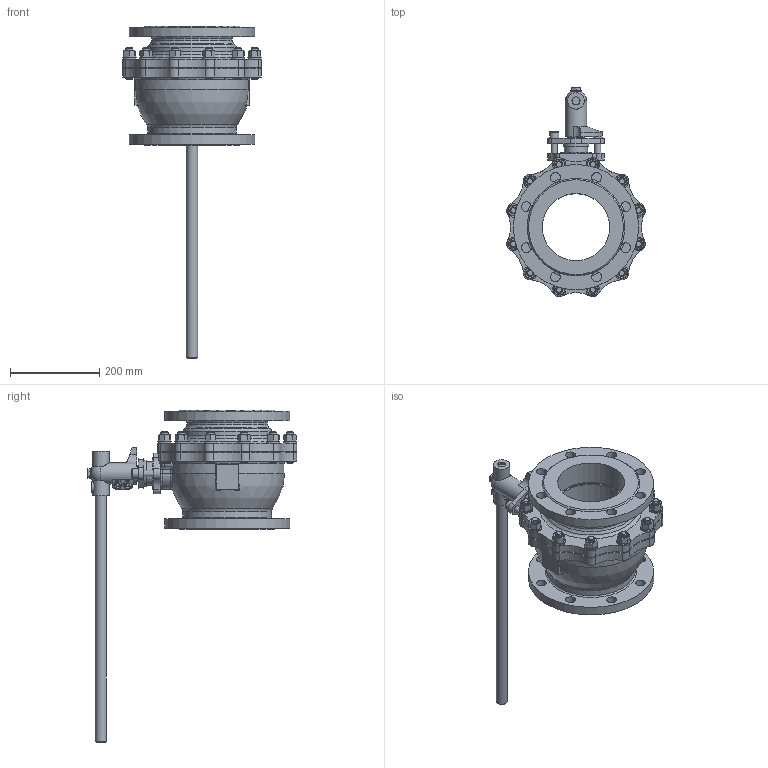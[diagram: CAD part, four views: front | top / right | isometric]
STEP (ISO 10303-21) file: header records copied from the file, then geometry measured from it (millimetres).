
FILE_DESCRIPTION(('STEP AP242'), '1');
FILE_NAME('ÀÇÌÀ.3403.14.150.000 ÑÁ - Êðàí øàðîâîé DN150 PN16', '', ('UNSPECIFIED'), ('UNSPECIFIED'), 'C3D Converter', 'C3D Toolkit', '');
FILE_SCHEMA(('AP242_MANAGED_MODEL_BASED_3D_ENGINEERING_MIM_LF { 1 0 10303 442 1 1 4 }'));
Length unit declared in the file: millimetre
Products named in the file (28): АЗМА.3403.14.150.000 СБ; АЗМА.3001.00.00.000.001-40; АЗМА.3403.14.150.001; АЗМА.3403.14.150.001Л; АЗМА.3402.14.150.003; АЗМА.3403.14.150.002; АЗМА.3403.14.150.002Л; 327-00-07; 327-00-08; 327-00-09; 327-00-11; 327-00-03; 327-00-10; АЗМА.3402.14.150.005; 688.00.001; АЗМА.3403.14.150.004Л; АЗМА.3403.14.150.006
Assembly tree (71 placements, depth 3):
  АЗМА.3403.14.150.000 СБ
    АЗМА.3001.00.00.000.001-40
    АЗМА.3403.14.150.001
      АЗМА.3403.14.150.001Л
    АЗМА.3402.14.150.003  x2
    (unnamed)  x2
    АЗМА.3403.14.150.002
      АЗМА.3403.14.150.002Л
    (unnamed)  x12
    (unnamed)  x12
    (unnamed)  x12
    327-00-07
    327-00-08  x5
    327-00-09
    327-00-11
    327-00-03
    327-00-10
    АЗМА.3402.14.150.005
    (unnamed)  x2
    688.00.001  x2
    (unnamed)
    (unnamed)  x2
    АЗМА.3403.14.150.004Л
    (unnamed)  x2
    (unnamed)  x2
    АЗМА.3403.14.150.006
    (unnamed)
    (unnamed)
Bounding box: 310.12 x 467.56 x 742 mm (x, y, z)
Volume: 8573253.5 mm3; surface area: 1402365.7 mm2
Topology: 81 solids, 81 shells, 1365 faces, 3551 edges, 2446 vertices
Faces by surface type: plane 538, cylinder 288, extrusion 240, cone 210, torus 61, bspline 17, sphere 11
Full cylindrical faces by diameter (mm): 2.5 x2, 8.376 x2, 10 x2, 10.106 x5, 11.835 x2, 12 x5, 13.5 x1, 13.835 x24, 14 x5, 16 x16, 17 x12, 18 x15, 21 x2, 22 x16, 24 x1, 25 x3, 30 x12, 34 x1, 36 x11, 37 x4, 43 x5, 45 x5, 46 x1, 47 x2, 48 x1, 52 x9, 58 x1, 70 x1, 150 x3, 157 x2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
Entity records: 55791 total; most frequent: CARTESIAN_POINT 28471, ORIENTED_EDGE 4476, DIRECTION 4411, EDGE_CURVE 2238, VERTEX_POINT 1619, AXIS2_PLACEMENT_3D 1605, EDGE_LOOP 1505, VECTOR 1201
